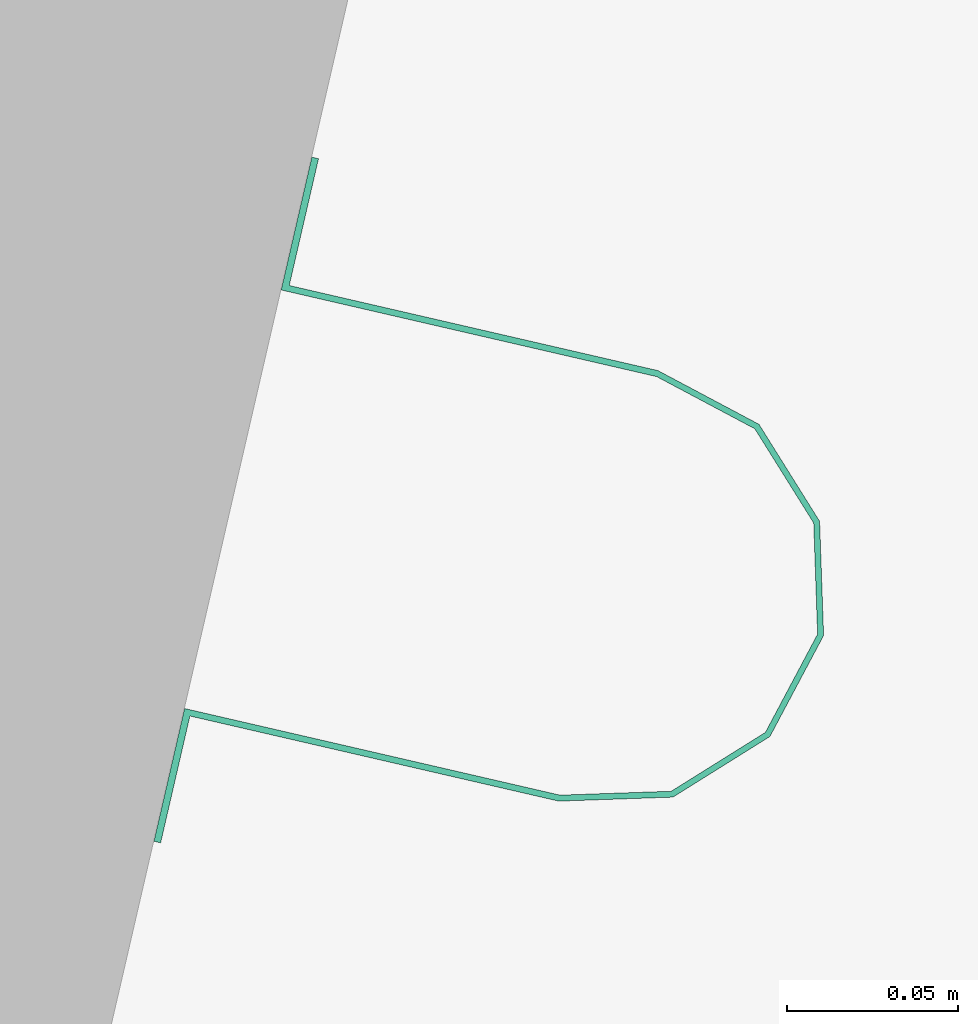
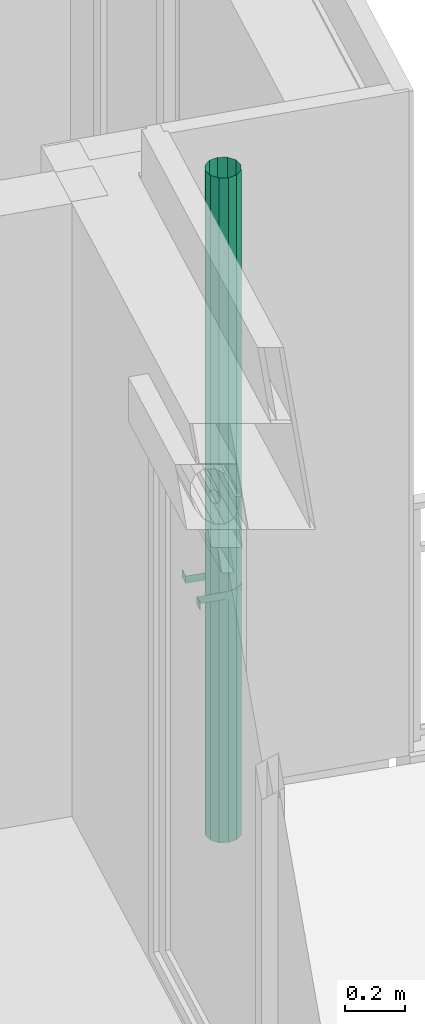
# One storey, part 85 of 90: 1 flow terminal.
"""IFC2X3 building model written with IfcOpenShell, lengths in metres."""

from ifc_helpers import new_model, entity, si_unit, converted_unit, derived_unit, money_unit, direction, frame, origin_with_axes, place, context, subcontext, project, spatial, open_shell, faceted_brep, surface_model, source, transform, mapped, type_object, element, save


model = new_model("IFC2X3")

# Units and contexts
model_context = context("Model", 3, precision=1e-05, world=origin_with_axes(), true_north=direction((0.0, 1.0)))
body_context = subcontext(model_context, "Body", "Model", "MODEL_VIEW")
ifc_project = project(units=[si_unit("LENGTHUNIT", "METRE"), si_unit("AREAUNIT", "SQUARE_METRE"), si_unit("VOLUMEUNIT", "CUBIC_METRE"), converted_unit("PLANEANGLEUNIT", "DEGREE", entity("IfcPlaneAngleMeasure", 0.0174532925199), si_unit("PLANEANGLEUNIT", "RADIAN"), dimensions=[0, 0, 0, 0, 0, 0, 0]), si_unit("SOLIDANGLEUNIT", "STERADIAN"), money_unit("EUR"), converted_unit("TIMEUNIT", "Year", entity("IfcTimeMeasure", 31556926.0), si_unit("TIMEUNIT", "SECOND"), dimensions=[0, 0, 1, 0, 0, 0, 0]), si_unit("MASSUNIT", "GRAM", prefix="KILO"), si_unit("THERMODYNAMICTEMPERATUREUNIT", "DEGREE_CELSIUS"), si_unit("LUMINOUSINTENSITYUNIT", "LUMEN"), si_unit("ENERGYUNIT", "JOULE", prefix="MEGA"), derived_unit("THERMALCONDUCTANCEUNIT", [(si_unit("POWERUNIT", "WATT"), 1), (si_unit("LENGTHUNIT", "METRE"), -1), (si_unit("THERMODYNAMICTEMPERATUREUNIT", "KELVIN"), -1)]), derived_unit("SPECIFICHEATCAPACITYUNIT", [(si_unit("ENERGYUNIT", "JOULE"), 1), (si_unit("MASSUNIT", "GRAM", prefix="KILO"), -1), (si_unit("THERMODYNAMICTEMPERATUREUNIT", "KELVIN"), -1)]), derived_unit("MASSDENSITYUNIT", [(si_unit("MASSUNIT", "GRAM", prefix="KILO"), 1), (si_unit("VOLUMEUNIT", "CUBIC_METRE"), -1)])], contexts=[model_context])

# Site, building, storey
site_placement = place(None, origin_with_axes())
site = spatial("IfcSite", under=ifc_project, at=site_placement, Name="Site", CompositionType="ELEMENT")
building_placement = place(site_placement, origin_with_axes())
building = spatial("IfcBuilding", under=site, at=building_placement, Name="Bâtiment", CompositionType="ELEMENT")
storey_placement = place(building_placement, frame((0.0, 0.0, 2.72), z_axis=(0.0, 0.0, 1.0), x_axis=(1.0, 0.0, 0.0)))
storey = spatial("IfcBuildingStorey", under=building, at=storey_placement, Name="R+1", CompositionType="ELEMENT", Elevation=2.72)

# Flow terminal
waste_terminal_type = type_object("IfcWasteTerminalType", Name="Tuyau descente 23", PredefinedType="GULLYTRAP")
shared_shape = source(origin_with_axes(), body_context, "Body", "SurfaceModel", [
    surface_model("IfcShellBasedSurfaceModel", [(0.0625, -0.0500000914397, 2.7222918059), (0.0541265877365, -0.0812500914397, 2.7222918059), (0.0541265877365, -0.0812500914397, 0.0), (0.0625, -0.0500000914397, 0.0), (0.03125, -0.104126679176, 2.7222918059), (0.03125, -0.104126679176, 0.0), (0.0541265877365, -0.0187500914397, 2.7222918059), (0.0541265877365, -0.0187500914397, 0.0), (0.0, -0.11250009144, 2.7222918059), (0.0, -0.11250009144, 0.0), (0.03125, 0.0041264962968, 2.7222918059), (0.03125, 0.0041264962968, 0.0), (-0.03125, -0.104126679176, 2.7222918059), (-0.03125, -0.104126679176, 0.0), (0.0, 0.0124999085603, 2.7222918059), (0.0, 0.0124999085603, 0.0), (-0.0541265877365, -0.0812500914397, 2.7222918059), (-0.0541265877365, -0.0812500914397, 0.0), (-0.03125, 0.0041264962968, 2.7222918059), (-0.03125, 0.0041264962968, 0.0), (-0.0625, -0.0500000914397, 2.7222918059), (-0.0625, -0.0500000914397, 0.0), (-0.0541265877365, -0.0187500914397, 2.7222918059), (-0.0541265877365, -0.0187500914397, 0.0)], [open_shell([[[0, 1, 2, 3]], [[1, 4, 5, 2]], [[6, 0, 3, 7]], [[4, 8, 9, 5]], [[10, 6, 7, 11]], [[8, 12, 13, 9]], [[14, 10, 11, 15]], [[12, 16, 17, 13]], [[18, 14, 15, 19]], [[16, 20, 21, 17]], [[22, 18, 19, 23]], [[20, 22, 23, 21]]])]),
    faceted_brep([(-0.1025, 0.0604, 1.0), (-0.0645, 0.0604, 1.0), (-0.0645, 0.0604, 1.03), (-0.1025, 0.0604, 1.03), (-0.1025, 0.0624, 1.0), (-0.0627, 0.0624, 1.0), (-0.0627, -0.0501000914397, 1.0), (-0.0542997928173, -0.0814500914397, 1.0), (-0.03135, -0.104399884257, 1.0), (0.0, -0.11280009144, 1.0), (0.03135, -0.104399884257, 1.0), (0.0542997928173, -0.0814500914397, 1.0), (0.0627, -0.0501000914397, 1.0), (0.0627, 0.0624, 1.0), (0.1025, 0.0624, 1.0), (0.1025, 0.0604, 1.0), (0.0645, 0.0604, 1.0), (0.0645, -0.0501000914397, 1.0), (0.0558586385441, -0.0823500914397, 1.0), (0.03225, -0.105958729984, 1.0), (0.0, -0.11460009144, 1.0), (-0.03225, -0.105958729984, 1.0), (-0.0558586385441, -0.0823500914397, 1.0), (-0.0645, -0.0501000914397, 1.0), (-0.0645, -0.0501000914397, 1.03), (-0.0558586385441, -0.0823500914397, 1.03), (-0.03225, -0.105958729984, 1.03), (0.0, -0.11460009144, 1.03), (0.03225, -0.105958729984, 1.03), (0.0558586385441, -0.0823500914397, 1.03), (0.0645, -0.0501000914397, 1.03), (0.0645, 0.0604, 1.03), (0.1025, 0.0604, 1.03), (0.1025, 0.0624, 1.03), (0.0627, 0.0624, 1.03), (0.0627, -0.0501000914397, 1.03), (0.0542997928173, -0.0814500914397, 1.03), (0.03135, -0.104399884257, 1.03), (0.0, -0.11280009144, 1.03), (-0.03135, -0.104399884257, 1.03), (-0.0542997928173, -0.0814500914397, 1.03), (-0.0627, -0.0501000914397, 1.03), (-0.0627, 0.0624, 1.03), (-0.1025, 0.0624, 1.03)], [[[0, 1, 2, 3]], [[0, 4, 5, 6, 7, 8, 9, 10, 11, 12, 13, 14, 15, 16, 17, 18, 19, 20, 21, 22, 23, 1]], [[1, 23, 24, 2]], [[3, 2, 24, 25, 26, 27, 28, 29, 30, 31, 32, 33, 34, 35, 36, 37, 38, 39, 40, 41, 42, 43]], [[4, 0, 3, 43]], [[5, 4, 43, 42]], [[6, 5, 42, 41]], [[7, 6, 41, 40]], [[8, 7, 40, 39]], [[9, 8, 39, 38]], [[10, 9, 38, 37]], [[11, 10, 37, 36]], [[12, 11, 36, 35]], [[13, 12, 35, 34]], [[14, 13, 34, 33]], [[15, 14, 33, 32]], [[16, 15, 32, 31]], [[17, 16, 31, 30]], [[18, 17, 30, 29]], [[19, 18, 29, 28]], [[20, 19, 28, 27]], [[21, 20, 27, 26]], [[22, 21, 26, 25]], [[23, 22, 25, 24]]]),
])
flow_terminal_placement = place(storey_placement, frame((-1.11037446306, 6.39538001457, 0.0), z_axis=(0.0, 0.0, 1.0), x_axis=(0.224876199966, 0.974387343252, 0.0)))
element("IfcFlowTerminal", 1, at=flow_terminal_placement, inside=storey, type_object=waste_terminal_type, Name="MOB-006", context=body_context, shape_type="MappedRepresentation", body=[
    mapped(shared_shape, transform((0.0, 0.0, 0.0))),
])

save(model, "model.ifc")
